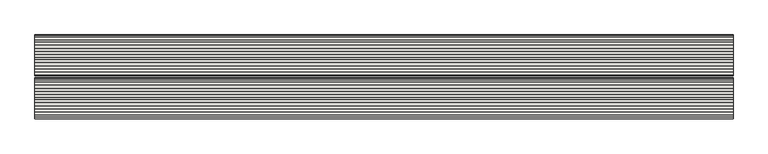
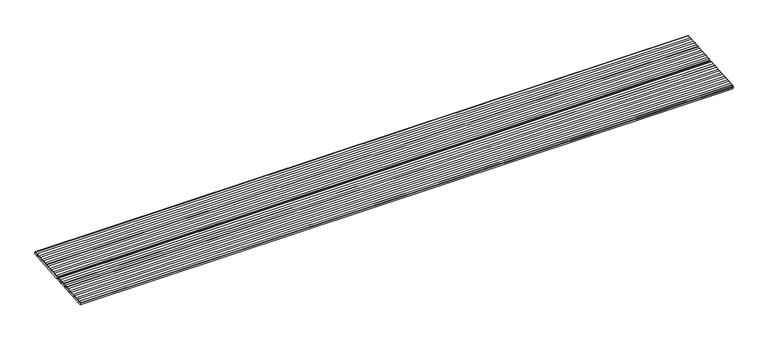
"""IFC4 building model written with IfcOpenShell, lengths in millimetres: slab geometry, ROSA GRES_001 (2 filas) : Piezas 001_Aqua_Blanco_Anti-Slip."""

from ifc_helpers import new_model, si_unit, point, frame, frame_2d, origin, place, context, project, spatial, polyline, circle_curve, trimmed, segment, composite_curve, outline, extrude, source, transform, mapped, element, save


def slab_e22d1998(model_context):
    return source(origin(), model_context, "Body", "SweptSolid", [
        extrude(outline(polyline([(0.0, -118.9996), (0.0, 0.0), (2028.0728665, 0.0), (2028.0728665, -118.9996), (0.0, -118.9996)])), frame((2028.0728665, 124.0577627, 199.6968204), z_axis=(0.0, -0.08112705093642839, 0.9967037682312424), x_axis=(-1.0, 0.0, 0.0)), (0.0, 0.0, 1.0), 5.0),
        extrude(outline(polyline([(0.0, -118.9996), (0.0, 0.0), (2028.0728665, 0.0), (2028.0728665, -118.9996), (0.0, -118.9996)])), frame((2028.0728665, 248.6453351, 209.8376693), z_axis=(0.0, -0.08112705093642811, 0.9967037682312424), x_axis=(-1.0, 0.0, 0.0)), (0.0, 0.0, 1.0), 5.0),
        extrude(outline(composite_curve([segment(polyline([(242.2594772, 214.3344258), (123.6521274, 204.6803392), (123.4389282, 207.2996439)]), True, "CONTINUOUS"), segment(trimmed(circle_curve(frame_2d((122.9853249, 212.8724843)), 5.5912705), [point((123.4389282, 207.2996439))], [point((127.5160501, 209.5960785))], True, "CARTESIAN"), True, "CONTINUOUS"), segment(trimmed(circle_curve(frame_2d((131.4572785, 213.5620619)), 5.5912705), [point((127.5160501, 209.5960785))], [point((135.9880037, 210.2856561))], True, "CARTESIAN"), True, "CONTINUOUS"), segment(trimmed(circle_curve(frame_2d((139.929232, 214.2516395)), 5.5912705), [point((135.9880037, 210.2856561))], [point((144.4599572, 210.9752337))], True, "CARTESIAN"), True, "CONTINUOUS"), segment(trimmed(circle_curve(frame_2d((148.4011856, 214.9412171)), 5.5912705), [point((144.4599572, 210.9752337))], [point((152.9319108, 211.6648113))], True, "CARTESIAN"), True, "CONTINUOUS"), segment(trimmed(circle_curve(frame_2d((156.8731392, 215.6307947)), 5.5912705), [point((152.9319108, 211.6648113))], [point((161.4038643, 212.3543889))], True, "CARTESIAN"), True, "CONTINUOUS"), segment(trimmed(circle_curve(frame_2d((165.3450927, 216.3203723)), 5.5912705), [point((161.4038643, 212.3543889))], [point((169.8758179, 213.0439666))], True, "CARTESIAN"), True, "CONTINUOUS"), segment(trimmed(circle_curve(frame_2d((173.8170463, 217.00995)), 5.5912705), [point((169.8758179, 213.0439666))], [point((178.3477714, 213.7335442))], True, "CARTESIAN"), True, "CONTINUOUS"), segment(trimmed(circle_curve(frame_2d((182.2889998, 217.6995276)), 5.5912705), [point((178.3477714, 213.7335442))], [point((186.819725, 214.4231218))], True, "CARTESIAN"), True, "CONTINUOUS"), segment(trimmed(circle_curve(frame_2d((190.7609534, 218.3891052)), 5.5912705), [point((186.819725, 214.4231218))], [point((195.2916785, 215.1126994))], True, "CARTESIAN"), True, "CONTINUOUS"), segment(trimmed(circle_curve(frame_2d((199.2329069, 219.0786828)), 5.5912705), [point((195.2916785, 215.1126994))], [point((203.7636321, 215.802277))], True, "CARTESIAN"), True, "CONTINUOUS"), segment(trimmed(circle_curve(frame_2d((207.7048605, 219.7682604)), 5.5912705), [point((203.7636321, 215.802277))], [point((212.2355856, 216.4918546))], True, "CARTESIAN"), True, "CONTINUOUS"), segment(trimmed(circle_curve(frame_2d((216.176814, 220.457838)), 5.5912705), [point((212.2355856, 216.4918546))], [point((220.7075392, 217.1814322))], True, "CARTESIAN"), True, "CONTINUOUS"), segment(trimmed(circle_curve(frame_2d((224.6487676, 221.1474157)), 5.5912705), [point((220.7075392, 217.1814322))], [point((229.1794928, 217.8710099))], True, "CARTESIAN"), True, "CONTINUOUS"), segment(trimmed(circle_curve(frame_2d((233.1207211, 221.8369933)), 5.5912705), [point((229.1794928, 217.8710099))], [point((237.6514463, 218.5605875))], True, "CARTESIAN"), True, "CONTINUOUS"), segment(trimmed(circle_curve(frame_2d((241.5926747, 222.5265709)), 5.5912705), [point((237.6514463, 218.5605875))], [point((242.046278, 216.9537305))], True, "CARTESIAN"), True, "CONTINUOUS"), segment(polyline([(242.046278, 216.9537305), (242.2594772, 214.3344258)]), True, "CONTINUOUS")], self_intersect=False)), frame((0.0, 0.0, 0.0), z_axis=(1.0, 0.0, 0.0), x_axis=(0.0, 1.0, 0.0)), (0.0, 0.0, 1.0), 2028.0728665),
        extrude(outline(composite_curve([segment(polyline([(366.8470495, 224.4752747), (248.2396998, 214.8211881), (248.0265006, 217.4404928)]), True, "CONTINUOUS"), segment(trimmed(circle_curve(frame_2d((247.5728973, 223.0133332)), 5.5912705), [point((248.0265006, 217.4404928))], [point((252.1036225, 219.7369274))], True, "CARTESIAN"), True, "CONTINUOUS"), segment(trimmed(circle_curve(frame_2d((256.0448508, 223.7029108)), 5.5912705), [point((252.1036225, 219.7369274))], [point((260.575576, 220.426505))], True, "CARTESIAN"), True, "CONTINUOUS"), segment(trimmed(circle_curve(frame_2d((264.5168044, 224.3924884)), 5.5912705), [point((260.575576, 220.426505))], [point((269.0475296, 221.1160826))], True, "CARTESIAN"), True, "CONTINUOUS"), segment(trimmed(circle_curve(frame_2d((272.9887579, 225.082066)), 5.5912705), [point((269.0475296, 221.1160826))], [point((277.5194831, 221.8056602))], True, "CARTESIAN"), True, "CONTINUOUS"), segment(trimmed(circle_curve(frame_2d((281.4607115, 225.7716436)), 5.5912705), [point((277.5194831, 221.8056602))], [point((285.9914367, 222.4952379))], True, "CARTESIAN"), True, "CONTINUOUS"), segment(trimmed(circle_curve(frame_2d((289.9326651, 226.4612213)), 5.5912705), [point((285.9914367, 222.4952379))], [point((294.4633902, 223.1848155))], True, "CARTESIAN"), True, "CONTINUOUS"), segment(trimmed(circle_curve(frame_2d((298.4046186, 227.1507989)), 5.5912705), [point((294.4633902, 223.1848155))], [point((302.9353438, 223.8743931))], True, "CARTESIAN"), True, "CONTINUOUS"), segment(trimmed(circle_curve(frame_2d((306.8765722, 227.8403765)), 5.5912705), [point((302.9353438, 223.8743931))], [point((311.4072973, 224.5639707))], True, "CARTESIAN"), True, "CONTINUOUS"), segment(trimmed(circle_curve(frame_2d((315.3485257, 228.5299541)), 5.5912705), [point((311.4072973, 224.5639707))], [point((319.8792509, 225.2535483))], True, "CARTESIAN"), True, "CONTINUOUS"), segment(trimmed(circle_curve(frame_2d((323.8204793, 229.2195317)), 5.5912705), [point((319.8792509, 225.2535483))], [point((328.3512044, 225.9431259))], True, "CARTESIAN"), True, "CONTINUOUS"), segment(trimmed(circle_curve(frame_2d((332.2924328, 229.9091093)), 5.5912705), [point((328.3512044, 225.9431259))], [point((336.823158, 226.6327035))], True, "CARTESIAN"), True, "CONTINUOUS"), segment(trimmed(circle_curve(frame_2d((340.7643864, 230.5986869)), 5.5912705), [point((336.823158, 226.6327035))], [point((345.2951115, 227.3222812))], True, "CARTESIAN"), True, "CONTINUOUS"), segment(trimmed(circle_curve(frame_2d((349.2363399, 231.2882646)), 5.5912705), [point((345.2951115, 227.3222812))], [point((353.7670651, 228.0118588))], True, "CARTESIAN"), True, "CONTINUOUS"), segment(trimmed(circle_curve(frame_2d((357.7082935, 231.9778422)), 5.5912705), [point((353.7670651, 228.0118588))], [point((362.2390187, 228.7014364))], True, "CARTESIAN"), True, "CONTINUOUS"), segment(trimmed(circle_curve(frame_2d((366.180247, 232.6674198)), 5.5912705), [point((362.2390187, 228.7014364))], [point((366.6338503, 227.0945794))], True, "CARTESIAN"), True, "CONTINUOUS"), segment(polyline([(366.6338503, 227.0945794), (366.8470495, 224.4752747)]), True, "CONTINUOUS")], self_intersect=False)), frame((0.0, 0.0, 0.0), z_axis=(1.0, 0.0, 0.0), x_axis=(0.0, 1.0, 0.0)), (0.0, 0.0, 1.0), 2028.0728665),
    ])


if __name__ == "__main__":
    model = new_model("IFC4")
    model_context = context("Model", 3, world=origin())
    ifc_project = project(units=[si_unit("LENGTHUNIT", "METRE", prefix="MILLI")], contexts=[model_context])
    site = spatial("IfcSite", under=ifc_project)
    building = spatial("IfcBuilding", under=site)
    placement = place(None, origin())
    slab_shape = slab_e22d1998(model_context)
    element("IfcSlab", 1, ObjectType="ROSA GRES_001 (2 filas) : Piezas 001_Aqua_Blanco_Anti-Slip", at=placement, inside=building, context=model_context, shape_type="MappedRepresentation", body=[
        mapped(slab_shape, transform((0.0, 0.0, 0.0), x_axis=(1.0, 0.0, 0.0), y_axis=(0.0, 1.0, 0.0), z_axis=(0.0, 0.0, 1.0))),
    ])
    save(model, "model.ifc")
